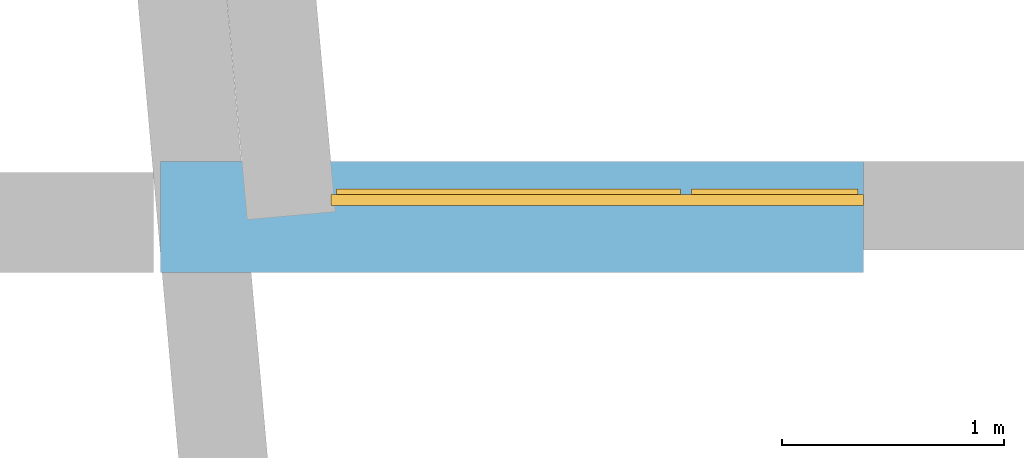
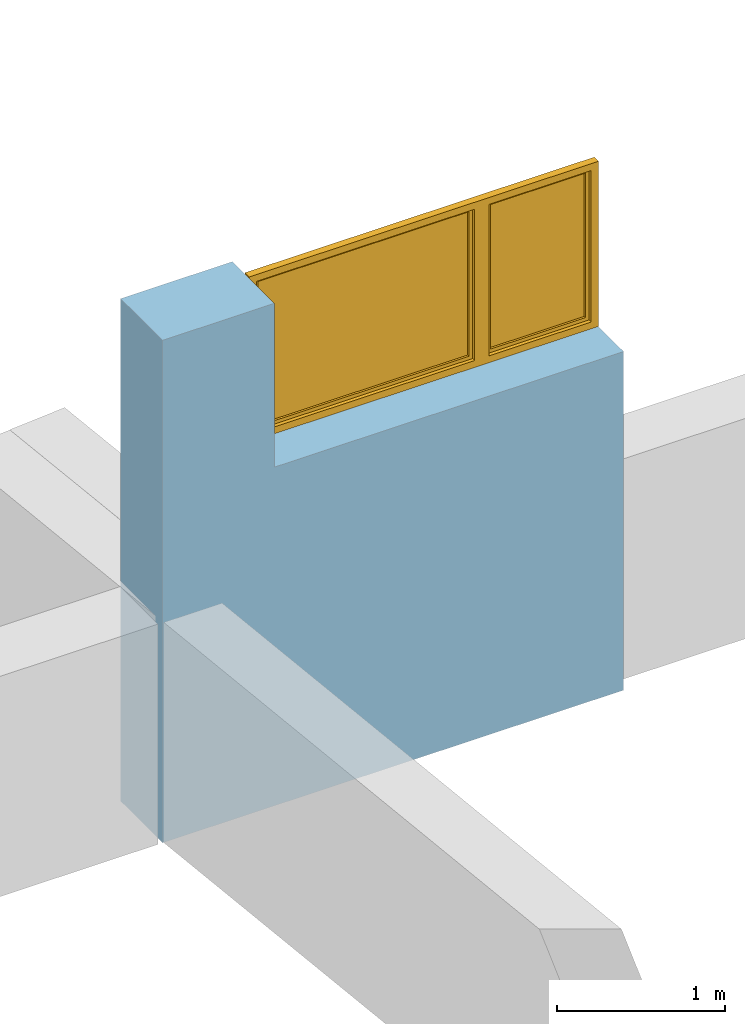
# One storey, part 2 of 2: 1 window, 1 opening, plus 1 element that does not belong to this part.
"""IFC2X3 building model written with IfcOpenShell, lengths in millimetres."""

from ifc_helpers import new_model, entity, si_unit, converted_unit, money_unit, direction, frame, origin_with_axes, place, context, subcontext, project, spatial, polyline, outline, extrude, open_shell, faceted_brep, surface_model, material, material_list, layer, layer_set, layer_usage, type_object, element, fill, save


model = new_model("IFC2X3")

# Units and contexts
model_context = context("Model", 3, precision=1e-05, world=origin_with_axes(), true_north=direction((0.0, 1.0)))
body_context = subcontext(model_context, "Body", "Model", "MODEL_VIEW")
ifc_project = project(units=[si_unit("LENGTHUNIT", "METRE", prefix="MILLI"), si_unit("AREAUNIT", "SQUARE_METRE"), si_unit("VOLUMEUNIT", "CUBIC_METRE"), converted_unit("PLANEANGLEUNIT", "DEGREE", entity("IfcPlaneAngleMeasure", 0.0174532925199), si_unit("PLANEANGLEUNIT", "RADIAN"), dimensions=[0, 0, 0, 0, 0, 0, 0]), si_unit("SOLIDANGLEUNIT", "STERADIAN"), money_unit("USD"), converted_unit("TIMEUNIT", "Year", entity("IfcTimeMeasure", 31556926.0), si_unit("TIMEUNIT", "SECOND"), dimensions=[0, 0, 0, 0, 0, 0, 0]), si_unit("MASSUNIT", "GRAM"), si_unit("THERMODYNAMICTEMPERATUREUNIT", "DEGREE_CELSIUS"), si_unit("LUMINOUSINTENSITYUNIT", "LUMEN")], contexts=[model_context])

# Site, building, storey
site_placement = place(None, origin_with_axes())
site = spatial("IfcSite", under=ifc_project, at=site_placement, Name="Site", CompositionType="ELEMENT")
building_placement = place(site_placement, origin_with_axes())
building = spatial("IfcBuilding", under=site, at=building_placement, Name="Building", CompositionType="ELEMENT")
storey_placement = place(building_placement, frame((0.0, 0.0, -5000.0), z_axis=(0.0, 0.0, 1.0), x_axis=(1.0, 0.0, 0.0)))
storey = spatial("IfcBuildingStorey", under=building, at=storey_placement, Name="Sokkel", CompositionType="ELEMENT", Elevation=-5000.0)

# Wall, opening, window
ifc_material_1 = material(Name="Olemasolevad seinad tellis, uus viimistlus")
ifc_layer = layer(ifc_material_1, 500.0, ventilated="UNKNOWN")
ifc_layer_set = layer_set([ifc_layer], Name="Olemasolevad seinad tellis, uus viimistlus 500")
ifc_layer_usage = layer_usage(ifc_layer_set, "AXIS2", "POSITIVE", -100.0)
wall_type = type_object("IfcWallType", Name="Olemasolevad seinad tellis, uus viimistlus 500", PredefinedType="NOTDEFINED")
wall_placement = place(storey_placement, frame((-54736.5854321, -5039.6041088, 0.0), z_axis=(0.0, 0.0, 1.0), x_axis=(1.0, 0.0, 0.0)))
wall = element("IfcWallStandardCase", 1, at=wall_placement, inside=storey, type_object=wall_type, material=ifc_layer_usage, Name="VS1", ObjectType="VS1", context=body_context, shape_type="SweptSolid", body=[
    extrude(outline(polyline([(0.0, -100.0), (3167.24661967, -100.0), (3167.24661967, 400.0), (0.0, 400.0), (0.0, -100.0)])), origin_with_axes(), (0.0, 0.0, 1.0), 3650.0),
])
opening_placement = place(wall_placement, frame((1967.24661967, 0.0, 2460.0), z_axis=(0.0, 0.0, 1.0), x_axis=(1.0, 0.0, 0.0)))
opening = element("IfcOpeningElement", 2, at=opening_placement, cuts=wall, Name="A2", context=body_context, shape_type="SweptSolid", body=[
    extrude(outline(polyline([(-1200.0, 1200.0), (-1200.0, 0.0), (1200.0, 0.0), (1200.0, 1200.0), (-1200.0, 1200.0)])), frame((0.0, 250.0, 0.0), z_axis=(0.0, -1.0, 0.0), x_axis=(1.0, 0.0, 0.0)), (0.0, 0.0, 1.0), 850.0),
    extrude(outline(polyline([(-1200.0, 0.0), (-1200.0, -1200.0), (1200.0, -1200.0), (1200.0, 0.0), (-1200.0, 0.0)])), frame((0.0, 250.0, 0.0), z_axis=(0.0, 1.0, 0.0), x_axis=(1.0, 0.0, 0.0)), (0.0, 0.0, 1.0), 650.0),
])
ifc_material_2 = material(Name="Background")
ifc_material_list = material_list([ifc_material_2])
window_style = type_object("IfcWindowStyle", Name="Double Window 19", ConstructionType="NOTDEFINED", OperationType="DOUBLE_PANEL_VERTICAL", ParameterTakesPrecedence=False, Sizeable=False)
window_placement = place(opening_placement, frame((-1200.0, 0.0, 0.0), z_axis=(0.0, 0.0, 1.0), x_axis=(1.0, 0.0, 0.0)))
window = element("IfcWindow", 3, at=window_placement, inside=storey, type_object=window_style, material=ifc_material_list, Name="A2", ObjectType="Olemasolevad aknad jäävad", OverallHeight=1200.0, OverallWidth=2400.0, context=body_context, shape_type="SurfaceModel", body=[
    faceted_brep([(25.0, 250.0, 1150.0), (0.0, 250.0, 1150.0), (0.0, 200.0, 1150.0), (50.0, 200.0, 1150.0), (50.0, 225.0, 1150.0), (25.0, 225.0, 1150.0), (25.0, 250.0, 50.0), (0.0, 250.0, 50.0), (0.0, 200.0, 50.0), (50.0, 200.0, 50.0), (50.0, 225.0, 50.0), (25.0, 225.0, 50.0)], [[[0, 1, 2, 3, 4, 5]], [[6, 7, 1, 0]], [[1, 7, 8, 2]], [[2, 8, 9, 3]], [[4, 3, 9, 10]], [[10, 11, 5, 4]], [[5, 11, 6, 0]], [[11, 10, 9, 8, 7, 6]]]),
    faceted_brep([(2350.0, 225.0, 1150.0), (2350.0, 200.0, 1150.0), (2400.0, 200.0, 1150.0), (2400.0, 250.0, 1150.0), (2375.0, 250.0, 1150.0), (2375.0, 225.0, 1150.0), (2350.0, 225.0, 50.0), (2350.0, 200.0, 50.0), (2400.0, 200.0, 50.0), (2400.0, 250.0, 50.0), (2375.0, 250.0, 50.0), (2375.0, 225.0, 50.0)], [[[0, 1, 2, 3, 4, 5]], [[6, 7, 1, 0]], [[8, 2, 1, 7]], [[9, 3, 2, 8]], [[4, 3, 9, 10]], [[10, 11, 5, 4]], [[5, 11, 6, 0]], [[11, 10, 9, 8, 7, 6]]]),
    faceted_brep([(1550.0, 225.0, 1150.0), (1550.0, 200.0, 1150.0), (1650.0, 200.0, 1150.0), (1650.0, 225.0, 1150.0), (1625.0, 225.0, 1150.0), (1625.0, 250.0, 1150.0), (1575.0, 250.0, 1150.0), (1575.0, 225.0, 1150.0), (1550.0, 225.0, 50.0), (1550.0, 200.0, 50.0), (1650.0, 200.0, 50.0), (1650.0, 225.0, 50.0), (1625.0, 225.0, 50.0), (1625.0, 250.0, 50.0), (1575.0, 250.0, 50.0), (1575.0, 225.0, 50.0)], [[[0, 1, 2, 3, 4, 5, 6, 7]], [[8, 9, 1, 0]], [[10, 2, 1, 9]], [[3, 2, 10, 11]], [[11, 12, 4, 3]], [[4, 12, 13, 5]], [[6, 5, 13, 14]], [[14, 15, 7, 6]], [[7, 15, 8, 0]], [[15, 14, 13, 12, 11, 10, 9, 8]]]),
    faceted_brep([(1550.0, 225.0, 50.0), (1550.0, 200.0, 50.0), (1650.0, 200.0, 50.0), (1650.0, 225.0, 50.0), (1625.0, 225.0, 50.0), (1625.0, 250.0, 50.0), (1575.0, 250.0, 50.0), (1575.0, 225.0, 50.0), (50.0, 225.0, 50.0), (50.0, 200.0, 50.0), (0.0, 200.0, 50.0), (0.0, 200.0, 0.0), (2400.0, 200.0, 0.0), (2400.0, 200.0, 50.0), (2350.0, 200.0, 50.0), (2350.0, 225.0, 50.0), (2375.0, 225.0, 50.0), (2375.0, 225.0, 25.0), (1625.0, 225.0, 25.0), (1625.0, 250.0, 25.0), (25.0, 250.0, 25.0), (1575.0, 250.0, 25.0), (2375.0, 250.0, 25.0), (2375.0, 250.0, 50.0), (2400.0, 250.0, 50.0), (2400.0, 250.0, 0.0), (0.0, 250.0, 0.0), (0.0, 250.0, 50.0), (25.0, 250.0, 50.0), (1575.0, 225.0, 25.0), (25.0, 225.0, 25.0), (25.0, 225.0, 50.0)], [[[0, 1, 2, 3, 4, 5, 6, 7]], [[8, 9, 1, 0]], [[10, 11, 12, 13, 14, 2, 1, 9]], [[3, 2, 14, 15]], [[16, 17, 18, 4, 3, 15]], [[4, 18, 19, 5]], [[20, 21, 6, 5, 19, 22, 23, 24, 25, 26, 27, 28]], [[21, 29, 7, 6]], [[7, 29, 30, 31, 8, 0]], [[31, 28, 27, 10, 9, 8]], [[27, 26, 11, 10]], [[26, 25, 12, 11]], [[25, 24, 13, 12]], [[15, 14, 13, 24, 23, 16]], [[22, 17, 16, 23]], [[19, 18, 17, 22]], [[20, 30, 29, 21]], [[31, 30, 20, 28]]]),
    faceted_brep([(25.0, 250.0, 1150.0), (0.0, 250.0, 1150.0), (0.0, 250.0, 1200.0), (2400.0, 250.0, 1200.0), (2400.0, 250.0, 1150.0), (2375.0, 250.0, 1150.0), (2375.0, 250.0, 1175.0), (1625.0, 250.0, 1175.0), (1625.0, 250.0, 1150.0), (1575.0, 250.0, 1150.0), (1575.0, 250.0, 1175.0), (25.0, 250.0, 1175.0), (25.0, 225.0, 1150.0), (50.0, 225.0, 1150.0), (50.0, 200.0, 1150.0), (0.0, 200.0, 1150.0), (0.0, 200.0, 1200.0), (2400.0, 200.0, 1200.0), (2400.0, 200.0, 1150.0), (2375.0, 225.0, 1150.0), (2350.0, 200.0, 1150.0), (2350.0, 225.0, 1150.0), (2375.0, 225.0, 1175.0), (1625.0, 225.0, 1175.0), (1625.0, 225.0, 1150.0), (1575.0, 225.0, 1150.0), (1650.0, 225.0, 1150.0), (1650.0, 200.0, 1150.0), (1550.0, 200.0, 1150.0), (1550.0, 225.0, 1150.0), (1575.0, 225.0, 1175.0), (25.0, 225.0, 1175.0)], [[[0, 1, 2, 3, 4, 5, 6, 7, 8, 9, 10, 11]], [[12, 13, 14, 15, 1, 0]], [[2, 1, 15, 16]], [[3, 2, 16, 17]], [[4, 3, 17, 18]], [[19, 5, 4, 18, 20, 21]], [[5, 19, 22, 6]], [[6, 22, 23, 7]], [[7, 23, 24, 8]], [[25, 9, 8, 24, 26, 27, 28, 29]], [[9, 25, 30, 10]], [[10, 30, 31, 11]], [[11, 31, 12, 0]], [[29, 13, 12, 31, 30, 25]], [[29, 28, 14, 13]], [[27, 20, 18, 17, 16, 15, 14, 28]], [[21, 20, 27, 26]], [[21, 26, 24, 23, 22, 19]]]),
    faceted_brep([(75.0, 225.0, 1125.0), (75.0, 275.0, 1125.0), (25.0, 275.0, 1125.0), (25.0, 225.0, 1125.0), (75.0, 225.0, 75.0), (75.0, 275.0, 75.0), (25.0, 275.0, 75.0), (25.0, 225.0, 75.0)], [[[0, 1, 2, 3]], [[4, 5, 1, 0]], [[1, 5, 6, 2]], [[3, 2, 6, 7]], [[0, 3, 7, 4]], [[7, 6, 5, 4]]]),
    faceted_brep([(1525.0, 225.0, 75.0), (1525.0, 275.0, 75.0), (1575.0, 275.0, 75.0), (1575.0, 225.0, 75.0), (1525.0, 225.0, 1125.0), (1525.0, 275.0, 1125.0), (1575.0, 275.0, 1125.0), (1575.0, 225.0, 1125.0)], [[[0, 1, 2, 3]], [[4, 5, 1, 0]], [[1, 5, 6, 2]], [[3, 2, 6, 7]], [[0, 3, 7, 4]], [[7, 6, 5, 4]]]),
    faceted_brep([(1575.0, 225.0, 25.0), (1575.0, 275.0, 25.0), (1575.0, 275.0, 75.0), (1575.0, 225.0, 75.0), (25.0, 225.0, 25.0), (25.0, 275.0, 25.0), (25.0, 275.0, 75.0), (75.0, 275.0, 75.0), (1525.0, 275.0, 75.0), (1525.0, 225.0, 75.0), (75.0, 225.0, 75.0), (25.0, 225.0, 75.0)], [[[0, 1, 2, 3]], [[4, 5, 1, 0]], [[1, 5, 6, 7, 8, 2]], [[3, 2, 8, 9]], [[0, 3, 9, 10, 11, 4]], [[11, 6, 5, 4]], [[10, 7, 6, 11]], [[9, 8, 7, 10]]]),
    faceted_brep([(25.0, 225.0, 1175.0), (25.0, 275.0, 1175.0), (25.0, 275.0, 1125.0), (25.0, 225.0, 1125.0), (1575.0, 225.0, 1175.0), (1575.0, 275.0, 1175.0), (1575.0, 275.0, 1125.0), (1525.0, 275.0, 1125.0), (75.0, 275.0, 1125.0), (75.0, 225.0, 1125.0), (1525.0, 225.0, 1125.0), (1575.0, 225.0, 1125.0)], [[[0, 1, 2, 3]], [[4, 5, 1, 0]], [[1, 5, 6, 7, 8, 2]], [[3, 2, 8, 9]], [[0, 3, 9, 10, 11, 4]], [[11, 6, 5, 4]], [[10, 7, 6, 11]], [[9, 8, 7, 10]]]),
    surface_model("IfcShellBasedSurfaceModel", [(75.0, 240.0, 75.0), (1525.0, 240.0, 75.0), (1525.0, 240.0, 1125.0), (75.0, 240.0, 1125.0)], [open_shell([[[0, 1, 2, 3]]])]),
    surface_model("IfcShellBasedSurfaceModel", [(75.0, 260.0, 75.0), (75.0, 260.0, 1125.0), (1525.0, 260.0, 1125.0), (1525.0, 260.0, 75.0)], [open_shell([[[0, 1, 2, 3]]])]),
    faceted_brep([(1675.0, 225.0, 1125.0), (1675.0, 275.0, 1125.0), (1625.0, 275.0, 1125.0), (1625.0, 225.0, 1125.0), (1675.0, 225.0, 75.0), (1675.0, 275.0, 75.0), (1625.0, 275.0, 75.0), (1625.0, 225.0, 75.0)], [[[0, 1, 2, 3]], [[4, 5, 1, 0]], [[1, 5, 6, 2]], [[3, 2, 6, 7]], [[0, 3, 7, 4]], [[7, 6, 5, 4]]]),
    faceted_brep([(2325.0, 225.0, 75.0), (2325.0, 275.0, 75.0), (2375.0, 275.0, 75.0), (2375.0, 225.0, 75.0), (2325.0, 225.0, 1125.0), (2325.0, 275.0, 1125.0), (2375.0, 275.0, 1125.0), (2375.0, 225.0, 1125.0)], [[[0, 1, 2, 3]], [[4, 5, 1, 0]], [[1, 5, 6, 2]], [[3, 2, 6, 7]], [[0, 3, 7, 4]], [[7, 6, 5, 4]]]),
    faceted_brep([(2375.0, 225.0, 25.0), (2375.0, 275.0, 25.0), (2375.0, 275.0, 75.0), (2375.0, 225.0, 75.0), (1625.0, 225.0, 25.0), (1625.0, 275.0, 25.0), (1625.0, 275.0, 75.0), (1675.0, 275.0, 75.0), (2325.0, 275.0, 75.0), (2325.0, 225.0, 75.0), (1675.0, 225.0, 75.0), (1625.0, 225.0, 75.0)], [[[0, 1, 2, 3]], [[4, 5, 1, 0]], [[1, 5, 6, 7, 8, 2]], [[3, 2, 8, 9]], [[0, 3, 9, 10, 11, 4]], [[11, 6, 5, 4]], [[10, 7, 6, 11]], [[9, 8, 7, 10]]]),
    faceted_brep([(1625.0, 225.0, 1175.0), (1625.0, 275.0, 1175.0), (1625.0, 275.0, 1125.0), (1625.0, 225.0, 1125.0), (2375.0, 225.0, 1175.0), (2375.0, 275.0, 1175.0), (2375.0, 275.0, 1125.0), (2325.0, 275.0, 1125.0), (1675.0, 275.0, 1125.0), (1675.0, 225.0, 1125.0), (2325.0, 225.0, 1125.0), (2375.0, 225.0, 1125.0)], [[[0, 1, 2, 3]], [[4, 5, 1, 0]], [[1, 5, 6, 7, 8, 2]], [[3, 2, 8, 9]], [[0, 3, 9, 10, 11, 4]], [[11, 6, 5, 4]], [[10, 7, 6, 11]], [[9, 8, 7, 10]]]),
    surface_model("IfcShellBasedSurfaceModel", [(1675.0, 240.0, 75.0), (2325.0, 240.0, 75.0), (2325.0, 240.0, 1125.0), (1675.0, 240.0, 1125.0)], [open_shell([[[0, 1, 2, 3]]])]),
    surface_model("IfcShellBasedSurfaceModel", [(1675.0, 260.0, 75.0), (1675.0, 260.0, 1125.0), (2325.0, 260.0, 1125.0), (2325.0, 260.0, 75.0)], [open_shell([[[0, 1, 2, 3]]])]),
])
fill(opening, window)

save(model, "model.ifc")
